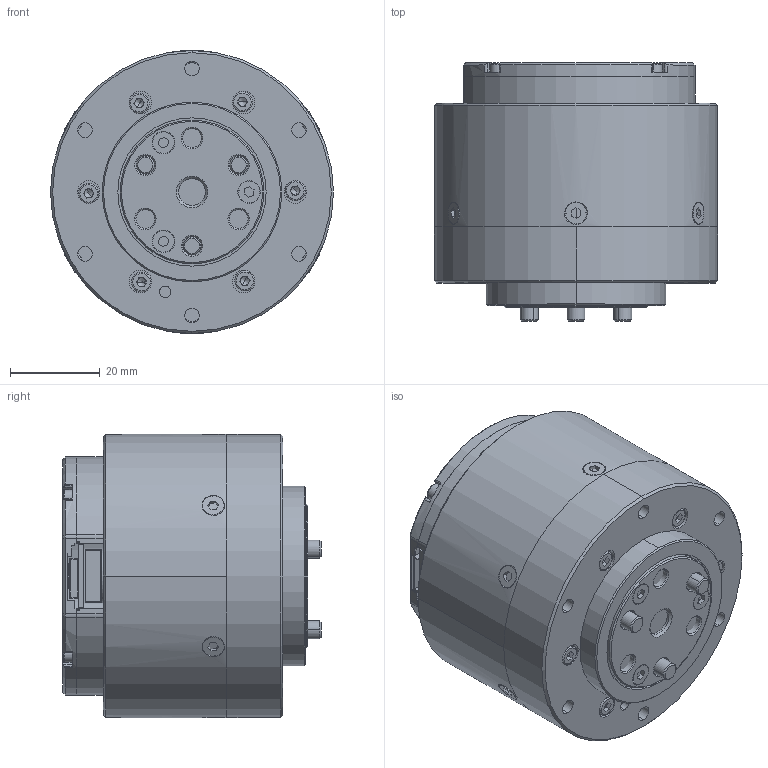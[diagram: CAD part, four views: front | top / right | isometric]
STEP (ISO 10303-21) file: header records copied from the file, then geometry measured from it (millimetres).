
FILE_DESCRIPTION (( 'STEP AP214' ), '1' );
FILE_NAME ('MG5010-i36v3.STEP', '2024-02-02T06:00:55', ( 'zhang_jianheng@outlook.com' ), ( 'HP' ), 'SwSTEP 2.0', 'SolidWorks 2020', '' );
FILE_SCHEMA (( 'AUTOMOTIVE_DESIGN' ));
Length unit declared in the file: millimetre
Products named in the file (1): MG5010-i36v3
Bounding box: 63 x 57.5 x 63 mm (x, y, z)
Volume: 154547.2 mm3; surface area: 39919.3 mm2
Topology: 33 solids, 33 shells, 1204 faces, 2906 edges, 1858 vertices
Faces by surface type: plane 495, cylinder 479, cone 136, bspline 82, torus 12
Entity records: 55470 total; most frequent: CARTESIAN_POINT 13613, DIRECTION 5992, ORIENTED_EDGE 5764, EDGE_CURVE 2882, AXIS2_PLACEMENT_3D 2253, VERTEX_POINT 1858, VECTOR 1486, LINE 1486
